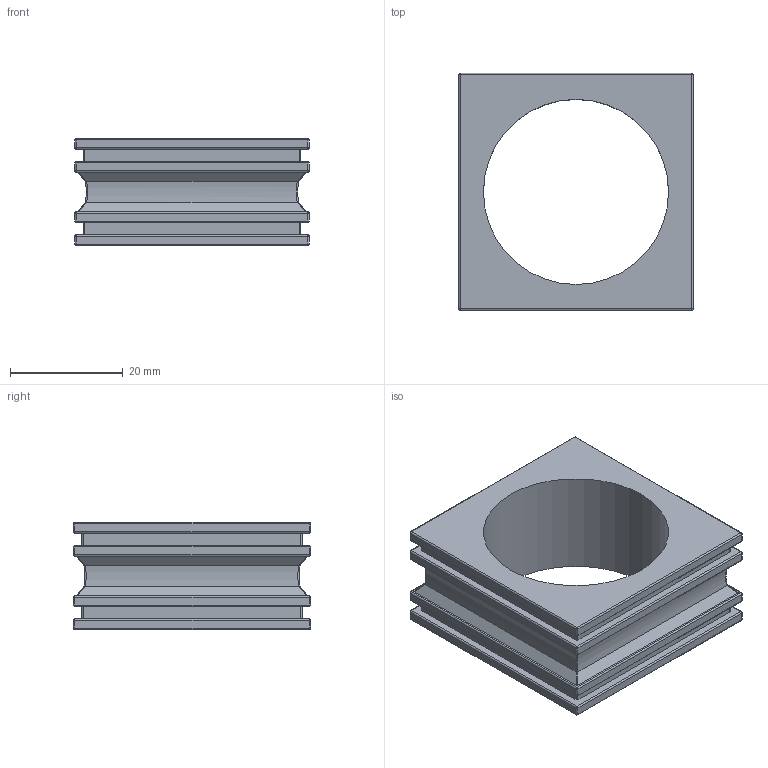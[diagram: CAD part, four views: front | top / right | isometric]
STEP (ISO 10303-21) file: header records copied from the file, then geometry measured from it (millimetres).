
FILE_DESCRIPTION (( 'STEP AP203' ), '1' );
FILE_NAME ('041233 KT33.STEP', '2023-03-07T06:44:38', ( '' ), ( '' ), 'SwSTEP 2.0', 'SolidWorks 2016', '' );
FILE_SCHEMA (( 'CONFIG_CONTROL_DESIGN' ));
Length unit declared in the file: millimetre
Products named in the file (1): 041233 KT33
Bounding box: 41.5 x 42 x 19 mm (x, y, z)
Volume: 14184.2 mm3; surface area: 7939.2 mm2
Topology: 1 solids, 1 shells, 194 faces, 480 edges, 266 vertices
Faces by surface type: plane 77, cylinder 71, bspline 46
Entity records: 7317 total; most frequent: CARTESIAN_POINT 3107, ORIENTED_EDGE 896, DIRECTION 796, EDGE_CURVE 448, AXIS2_PLACEMENT_3D 267, VERTEX_POINT 266, LINE 262, VECTOR 262
